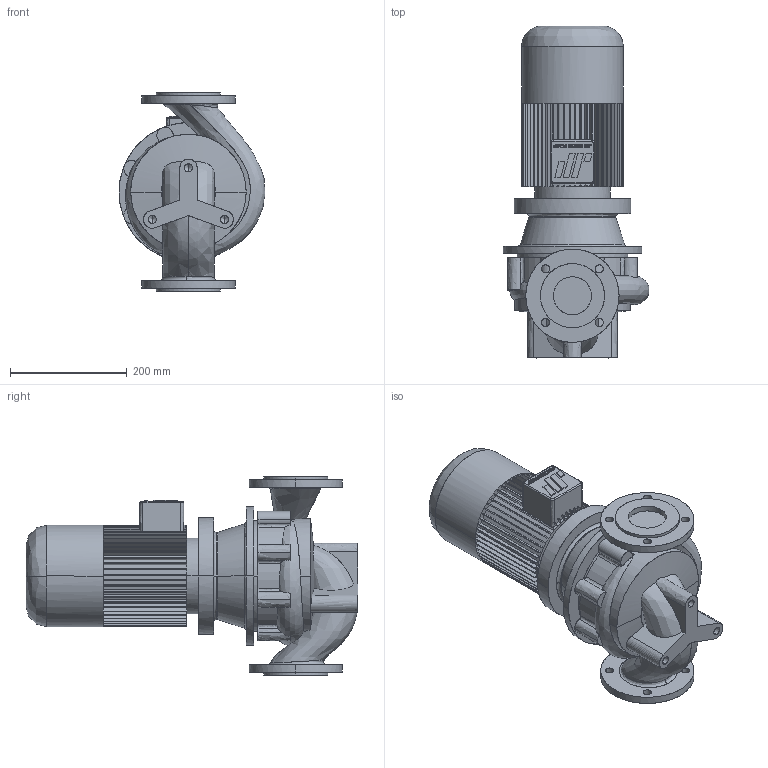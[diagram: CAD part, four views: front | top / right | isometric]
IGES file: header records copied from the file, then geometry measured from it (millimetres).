
Start section: CombiLine
Global section: file name: CLB_65-160_IEC90S.igs; native system:  By UGS Corp.; preprocessor: XPlus GENERIC/IGES 3.0; author: Stageplaats; organization: Johnson Pump Water B.V.; date: 20070713.132731; units: millimetre
Bounding box: 250.23 x 569.5 x 340 mm (x, y, z)
Surface area: 721278.5 mm2 (no closed solid volume)
Topology: 0 solids, 0 shells, 541 faces, 3292 edges, 3286 vertices
Faces by surface type: bspline 541
